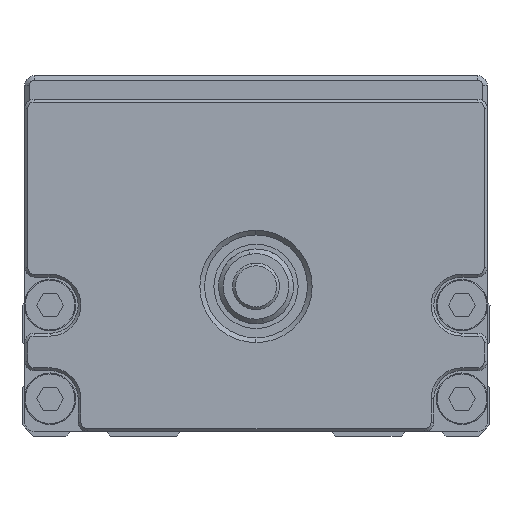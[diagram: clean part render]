
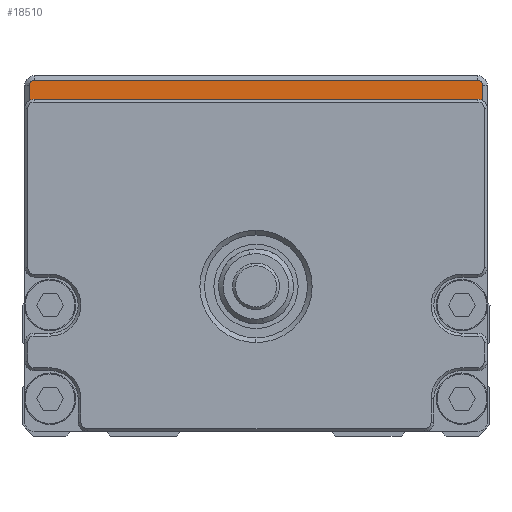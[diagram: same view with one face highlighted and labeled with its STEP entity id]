
A CAD part, front view. The second image highlights one B-rep face of the part: STEP entity #18510.
In plain terms, the highlighted planar face has unit normal (0, -1, 0) as drawn and (0, 1, 0) by its records, which use the part's own axes.
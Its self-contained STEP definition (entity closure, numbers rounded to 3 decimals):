
#1414 = DIRECTION ( 'NONE',  ( 0., 1., 0. ) ) ;
#1490 = DIRECTION ( 'NONE',  ( 1., 0., 0. ) ) ;
#1848 = CIRCLE ( 'NONE', #28717, 1. ) ;
#1855 = CARTESIAN_POINT ( 'NONE',  ( -23.7, -10., 35. ) ) ;
#2444 = ORIENTED_EDGE ( 'NONE', *, *, #30936, .T. ) ;
#2757 = CIRCLE ( 'NONE', #10075, 0.5 ) ;
#2796 = CARTESIAN_POINT ( 'NONE',  ( -23.7, -10., 37.5 ) ) ;
#4110 = EDGE_LOOP ( 'NONE', ( #28439, #7994, #22199, #10838, #18680, #2444, #13551, #24360 ) ) ;
#5324 = LINE ( 'NONE', #16725, #27167 ) ;
#5342 = PLANE ( 'NONE',  #27866 ) ;
#5462 = VERTEX_POINT ( 'NONE', #10949 ) ;
#5612 = VERTEX_POINT ( 'NONE', #21761 ) ;
#5802 = VERTEX_POINT ( 'NONE', #19672 ) ;
#6051 = DIRECTION ( 'NONE',  ( 0., 0., -1. ) ) ;
#6842 = EDGE_CURVE ( 'NONE', #26359, #5802, #11959, .T. ) ;
#7126 = CARTESIAN_POINT ( 'NONE',  ( 23.7, -10., 37.5 ) ) ;
#7374 = CIRCLE ( 'NONE', #10532, 1. ) ;
#7994 = ORIENTED_EDGE ( 'NONE', *, *, #6842, .T. ) ;
#9440 = DIRECTION ( 'NONE',  ( 0., 0., 1. ) ) ;
#9478 = CARTESIAN_POINT ( 'NONE',  ( 24.2, -10., 35.866 ) ) ;
#9498 = CARTESIAN_POINT ( 'NONE',  ( 23.7, -10., 36. ) ) ;
#10075 = AXIS2_PLACEMENT_3D ( 'NONE', #7126, #11718, #29380 ) ;
#10532 = AXIS2_PLACEMENT_3D ( 'NONE', #1855, #26350, #21361 ) ;
#10770 = AXIS2_PLACEMENT_3D ( 'NONE', #16412, #1414, #26669 ) ;
#10838 = ORIENTED_EDGE ( 'NONE', *, *, #27727, .T. ) ;
#10949 = CARTESIAN_POINT ( 'NONE',  ( -23.7, -10., 38. ) ) ;
#11504 = DIRECTION ( 'NONE',  ( 0., 0., -1. ) ) ;
#11718 = DIRECTION ( 'NONE',  ( 0., 1., 0. ) ) ;
#11731 = CARTESIAN_POINT ( 'NONE',  ( -24.2, -10., 35.866 ) ) ;
#11959 = LINE ( 'NONE', #16744, #25274 ) ;
#12306 = DIRECTION ( 'NONE',  ( 0., 0., -1. ) ) ;
#12474 = EDGE_CURVE ( 'NONE', #5612, #31650, #2757, .T. ) ;
#12730 = VERTEX_POINT ( 'NONE', #30826 ) ;
#13075 = VECTOR ( 'NONE', #1490, 1000. ) ;
#13551 = ORIENTED_EDGE ( 'NONE', *, *, #29147, .F. ) ;
#14264 = EDGE_CURVE ( 'NONE', #12730, #22190, #18531, .T. ) ;
#16412 = CARTESIAN_POINT ( 'NONE',  ( -23.7, -10., 37.5 ) ) ;
#16725 = CARTESIAN_POINT ( 'NONE',  ( 24.2, -10., 35. ) ) ;
#16744 = CARTESIAN_POINT ( 'NONE',  ( -24.2, -10., 37.5 ) ) ;
#18460 = VERTEX_POINT ( 'NONE', #9478 ) ;
#18479 = DIRECTION ( 'NONE',  ( 0., 1., 0. ) ) ;
#18510 = ADVANCED_FACE ( 'NONE', ( #23882 ), #5342, .T. ) ;
#18531 = LINE ( 'NONE', #9498, #13075 ) ;
#18680 = ORIENTED_EDGE ( 'NONE', *, *, #12474, .T. ) ;
#19672 = CARTESIAN_POINT ( 'NONE',  ( -24.2, -10., 37.5 ) ) ;
#20615 = DIRECTION ( 'NONE',  ( 0., 1., 0. ) ) ;
#21361 = DIRECTION ( 'NONE',  ( 0., 0., -1. ) ) ;
#21761 = CARTESIAN_POINT ( 'NONE',  ( 23.7, -10., 38. ) ) ;
#22190 = VERTEX_POINT ( 'NONE', #22393 ) ;
#22199 = ORIENTED_EDGE ( 'NONE', *, *, #29264, .T. ) ;
#22393 = CARTESIAN_POINT ( 'NONE',  ( 23.7, -10., 36. ) ) ;
#23616 = LINE ( 'NONE', #23767, #28681 ) ;
#23764 = EDGE_CURVE ( 'NONE', #26359, #12730, #7374, .T. ) ;
#23767 = CARTESIAN_POINT ( 'NONE',  ( 23.7, -10., 38. ) ) ;
#23882 = FACE_OUTER_BOUND ( 'NONE', #4110, .T. ) ;
#24360 = ORIENTED_EDGE ( 'NONE', *, *, #14264, .F. ) ;
#25274 = VECTOR ( 'NONE', #9440, 1000. ) ;
#25915 = CARTESIAN_POINT ( 'NONE',  ( 23.7, -10., 35. ) ) ;
#26350 = DIRECTION ( 'NONE',  ( 0., 1., 0. ) ) ;
#26359 = VERTEX_POINT ( 'NONE', #11731 ) ;
#26669 = DIRECTION ( 'NONE',  ( 0., 0., 1. ) ) ;
#27167 = VECTOR ( 'NONE', #11504, 1000. ) ;
#27727 = EDGE_CURVE ( 'NONE', #5462, #5612, #23616, .T. ) ;
#27866 = AXIS2_PLACEMENT_3D ( 'NONE', #2796, #20615, #12306 ) ;
#28439 = ORIENTED_EDGE ( 'NONE', *, *, #23764, .F. ) ;
#28660 = DIRECTION ( 'NONE',  ( 1., 0., 0. ) ) ;
#28681 = VECTOR ( 'NONE', #28660, 1000. ) ;
#28717 = AXIS2_PLACEMENT_3D ( 'NONE', #25915, #18479, #6051 ) ;
#29147 = EDGE_CURVE ( 'NONE', #22190, #18460, #1848, .T. ) ;
#29264 = EDGE_CURVE ( 'NONE', #5802, #5462, #29994, .T. ) ;
#29380 = DIRECTION ( 'NONE',  ( 0., 0., 1. ) ) ;
#29994 = CIRCLE ( 'NONE', #10770, 0.5 ) ;
#30826 = CARTESIAN_POINT ( 'NONE',  ( -23.7, -10., 36. ) ) ;
#30936 = EDGE_CURVE ( 'NONE', #31650, #18460, #5324, .T. ) ;
#31650 = VERTEX_POINT ( 'NONE', #32083 ) ;
#32083 = CARTESIAN_POINT ( 'NONE',  ( 24.2, -10., 37.5 ) ) ;
